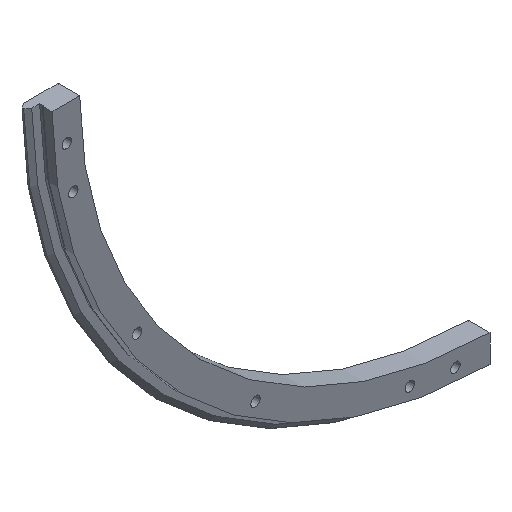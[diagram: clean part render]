
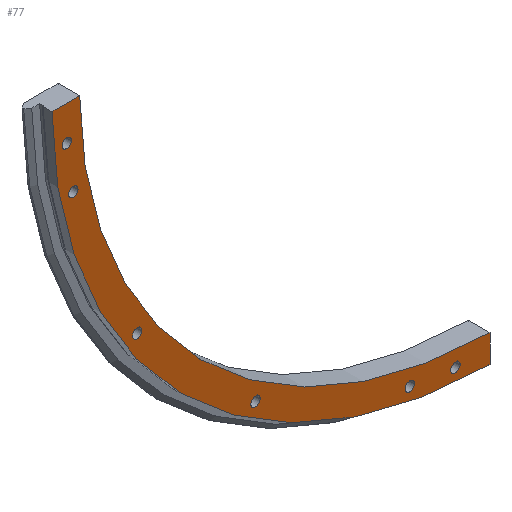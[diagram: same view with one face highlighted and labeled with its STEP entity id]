
A CAD part, isometric view. The second image highlights one B-rep face of the part: STEP entity #77.
In plain terms, the highlighted planar face has unit normal (0, -1, 0).
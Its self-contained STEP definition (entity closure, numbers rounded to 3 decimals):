
#77 = ADVANCED_FACE( '', ( #110, #111, #112, #113, #114, #115, #116 ), #117, .T. );
#110 = FACE_BOUND( '', #200, .T. );
#111 = FACE_BOUND( '', #201, .T. );
#112 = FACE_BOUND( '', #202, .T. );
#113 = FACE_BOUND( '', #203, .T. );
#114 = FACE_BOUND( '', #204, .T. );
#115 = FACE_BOUND( '', #205, .T. );
#116 = FACE_OUTER_BOUND( '', #206, .T. );
#117 = PLANE( '', #207 );
#200 = EDGE_LOOP( '', ( #306 ) );
#201 = EDGE_LOOP( '', ( #307 ) );
#202 = EDGE_LOOP( '', ( #308 ) );
#203 = EDGE_LOOP( '', ( #309 ) );
#204 = EDGE_LOOP( '', ( #310 ) );
#205 = EDGE_LOOP( '', ( #311 ) );
#206 = EDGE_LOOP( '', ( #312, #313, #314, #315 ) );
#207 = AXIS2_PLACEMENT_3D( '', #316, #317, #318 );
#306 = ORIENTED_EDGE( '', *, *, #497, .F. );
#307 = ORIENTED_EDGE( '', *, *, #498, .F. );
#308 = ORIENTED_EDGE( '', *, *, #499, .F. );
#309 = ORIENTED_EDGE( '', *, *, #500, .F. );
#310 = ORIENTED_EDGE( '', *, *, #501, .F. );
#311 = ORIENTED_EDGE( '', *, *, #502, .F. );
#312 = ORIENTED_EDGE( '', *, *, #503, .F. );
#313 = ORIENTED_EDGE( '', *, *, #504, .T. );
#314 = ORIENTED_EDGE( '', *, *, #505, .T. );
#315 = ORIENTED_EDGE( '', *, *, #484, .T. );
#316 = CARTESIAN_POINT( '', ( -298.75, 0., 0. ) );
#317 = DIRECTION( '', ( 0., -1., 0. ) );
#318 = DIRECTION( '', ( 0., 0., -1. ) );
#484 = EDGE_CURVE( '', #538, #539, #540, .T. );
#497 = EDGE_CURVE( '', #563, #563, #564, .T. );
#498 = EDGE_CURVE( '', #565, #565, #566, .T. );
#499 = EDGE_CURVE( '', #567, #567, #568, .T. );
#500 = EDGE_CURVE( '', #569, #569, #570, .T. );
#501 = EDGE_CURVE( '', #571, #571, #572, .T. );
#502 = EDGE_CURVE( '', #573, #573, #574, .T. );
#503 = EDGE_CURVE( '', #575, #539, #576, .T. );
#504 = EDGE_CURVE( '', #575, #577, #578, .T. );
#505 = EDGE_CURVE( '', #577, #538, #579, .T. );
#538 = VERTEX_POINT( '', #636 );
#539 = VERTEX_POINT( '', #637 );
#540 = LINE( '', #638, #639 );
#563 = VERTEX_POINT( '', #692 );
#564 = CIRCLE( '', #693, 3.4 );
#565 = VERTEX_POINT( '', #694 );
#566 = CIRCLE( '', #695, 3.4 );
#567 = VERTEX_POINT( '', #696 );
#568 = CIRCLE( '', #697, 3.4 );
#569 = VERTEX_POINT( '', #698 );
#570 = CIRCLE( '', #699, 3.4 );
#571 = VERTEX_POINT( '', #700 );
#572 = CIRCLE( '', #701, 3.4 );
#573 = VERTEX_POINT( '', #702 );
#574 = CIRCLE( '', #703, 3.4 );
#575 = VERTEX_POINT( '', #704 );
#576 = CIRCLE( '', #705, 298.75 );
#577 = VERTEX_POINT( '', #706 );
#578 = LINE( '', #707, #708 );
#579 = CIRCLE( '', #709, 318.75 );
#636 = CARTESIAN_POINT( '', ( -2.5, 0., -318.74 ) );
#637 = CARTESIAN_POINT( '', ( -2.5, 0., -298.74 ) );
#638 = CARTESIAN_POINT( '', ( -2.5, 0., -328.75 ) );
#639 = VECTOR( '', #778, 1000. );
#692 = CARTESIAN_POINT( '', ( -257.132, 0., -175.21 ) );
#693 = AXIS2_PLACEMENT_3D( '', #791, #792, #793 );
#694 = CARTESIAN_POINT( '', ( -171.81, 0., -260.532 ) );
#695 = AXIS2_PLACEMENT_3D( '', #794, #795, #796 );
#696 = CARTESIAN_POINT( '', ( -303.308, 0., -63.732 ) );
#697 = AXIS2_PLACEMENT_3D( '', #797, #798, #799 );
#698 = CARTESIAN_POINT( '', ( -308.025, 0., -30.901 ) );
#699 = AXIS2_PLACEMENT_3D( '', #800, #801, #802 );
#700 = CARTESIAN_POINT( '', ( -60.332, 0., -306.708 ) );
#701 = AXIS2_PLACEMENT_3D( '', #803, #804, #805 );
#702 = CARTESIAN_POINT( '', ( -27.501, 0., -311.425 ) );
#703 = AXIS2_PLACEMENT_3D( '', #806, #807, #808 );
#704 = CARTESIAN_POINT( '', ( -298.74, 0., -2.5 ) );
#705 = AXIS2_PLACEMENT_3D( '', #809, #810, #811 );
#706 = CARTESIAN_POINT( '', ( -318.74, 0., -2.5 ) );
#707 = CARTESIAN_POINT( '', ( -2.5, 0., -2.5 ) );
#708 = VECTOR( '', #812, 1000. );
#709 = AXIS2_PLACEMENT_3D( '', #813, #814, #815 );
#778 = DIRECTION( '', ( 0., 0., 1. ) );
#791 = CARTESIAN_POINT( '', ( -257.132, 0., -171.81 ) );
#792 = DIRECTION( '', ( 0., -1., 0. ) );
#793 = DIRECTION( '', ( 0., 0., -1. ) );
#794 = CARTESIAN_POINT( '', ( -171.81, 0., -257.132 ) );
#795 = DIRECTION( '', ( 0., -1., 0. ) );
#796 = DIRECTION( '', ( 0., 0., -1. ) );
#797 = CARTESIAN_POINT( '', ( -303.308, 0., -60.332 ) );
#798 = DIRECTION( '', ( 0., -1., 0. ) );
#799 = DIRECTION( '', ( 0., 0., -1. ) );
#800 = CARTESIAN_POINT( '', ( -308.025, 0., -27.501 ) );
#801 = DIRECTION( '', ( 0., -1., 0. ) );
#802 = DIRECTION( '', ( 0., 0., -1. ) );
#803 = CARTESIAN_POINT( '', ( -60.332, 0., -303.308 ) );
#804 = DIRECTION( '', ( 0., -1., 0. ) );
#805 = DIRECTION( '', ( 0., 0., -1. ) );
#806 = CARTESIAN_POINT( '', ( -27.501, 0., -308.025 ) );
#807 = DIRECTION( '', ( 0., -1., 0. ) );
#808 = DIRECTION( '', ( 0., 0., -1. ) );
#809 = CARTESIAN_POINT( '', ( 0., 0., 0. ) );
#810 = DIRECTION( '', ( 0., -1., 0. ) );
#811 = DIRECTION( '', ( 0., 0., -1. ) );
#812 = DIRECTION( '', ( -1., 0., 0. ) );
#813 = CARTESIAN_POINT( '', ( 0., 0., 0. ) );
#814 = DIRECTION( '', ( 0., -1., 0. ) );
#815 = DIRECTION( '', ( 0., 0., -1. ) );
